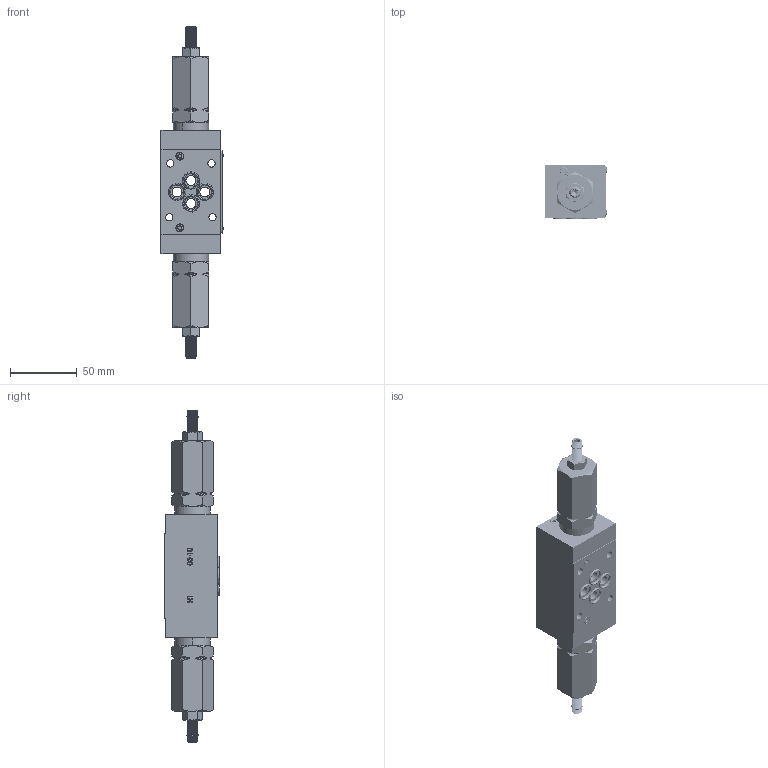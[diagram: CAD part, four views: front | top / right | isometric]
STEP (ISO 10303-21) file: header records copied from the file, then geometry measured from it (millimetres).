
FILE_DESCRIPTION (( 'STEP AP214' ), '1' );
FILE_NAME ('ASSIEME 379-4-AB.STEP', '2019-10-14T08:50:11', ( '' ), ( '' ), 'SwSTEP 2.0', 'SolidWorks 2018', '' );
FILE_SCHEMA (( 'AUTOMOTIVE_DESIGN' ));
Length unit declared in the file: millimetre
Products named in the file (23): ASSIEME 279-4-78-UNF; OR 108; OR  3075; OR2050-1; BUSSOLA DI TENUTA 276-4.018.00.0-78; O-RING 2037; MOLLA COMPENSATORE 276-4.030.00-1-78; TAPPO EIS ETRS060SM UNIFAST; MOLLA CILINDRICA 276-4.009.00.1-78; RIVETTO D=2 x L=4.6 TAPDM1BS LD FASTENERS; CORPO CARTUCCIA 279-4.101.00.0-78; ANELLO DI SICUREZZA RB7 DIN  7993; ASSIEME 379-4-AB; SFERA D= 4mm; PISTONE 279-4.019.00.0-78; BUSSOLA 279-4.034.00.0-78; PISTONE OTTURATORE 276-4.050.00.0-78; BK2050; TARGHETTA 379-4-AB.015.00.0-03; VITE DI REGOLAZIONE 276-4.017.00.0-78; DADO ESAGONALE M8x1 Sp.6.5 mm; CORPO VALVOLA 379-3-AB.001.00.0; OR 2037
Assembly tree (33 placements, depth 3):
  ASSIEME 379-4-AB
    TARGHETTA 379-4-AB.015.00.0-03
    O-RING 2037  x4
    CORPO VALVOLA 379-3-AB.001.00.0
    ASSIEME 279-4-78-UNF  x2
      CORPO CARTUCCIA 279-4.101.00.0-78
      BK2050
      OR2050-1
      BUSSOLA 279-4.034.00.0-78
      PISTONE 279-4.019.00.0-78
      ANELLO DI SICUREZZA RB7 DIN  7993
      BUSSOLA DI TENUTA 276-4.018.00.0-78
      DADO ESAGONALE M8x1 Sp.6.5 mm
      MOLLA CILINDRICA 276-4.009.00.1-78
      MOLLA COMPENSATORE 276-4.030.00-1-78
      OR  3075
      OR 108
      OR 2037
      PISTONE OTTURATORE 276-4.050.00.0-78
      SFERA D= 4mm
      VITE DI REGOLAZIONE 276-4.017.00.0-78
    RIVETTO D=2 x L=4.6 TAPDM1BS LD FASTENERS  x4
    TAPPO EIS ETRS060SM UNIFAST  x4
Bounding box: 46.66 x 41.1 x 249.6 mm (x, y, z)
Volume: 210178.8 mm3; surface area: 87481.7 mm2
Topology: 48 solids, 48 shells, 3734 faces, 8810 edges, 5423 vertices
Faces by surface type: plane 1457, cone 1270, cylinder 486, bspline 417, torus 92, sphere 12
Entity records: 120555 total; most frequent: CARTESIAN_POINT 43185, ORIENTED_EDGE 13014, DIRECTION 11404, EDGE_CURVE 6507, LINE 4210, VECTOR 4210, VERTEX_POINT 4102, AXIS2_PLACEMENT_3D 3597
